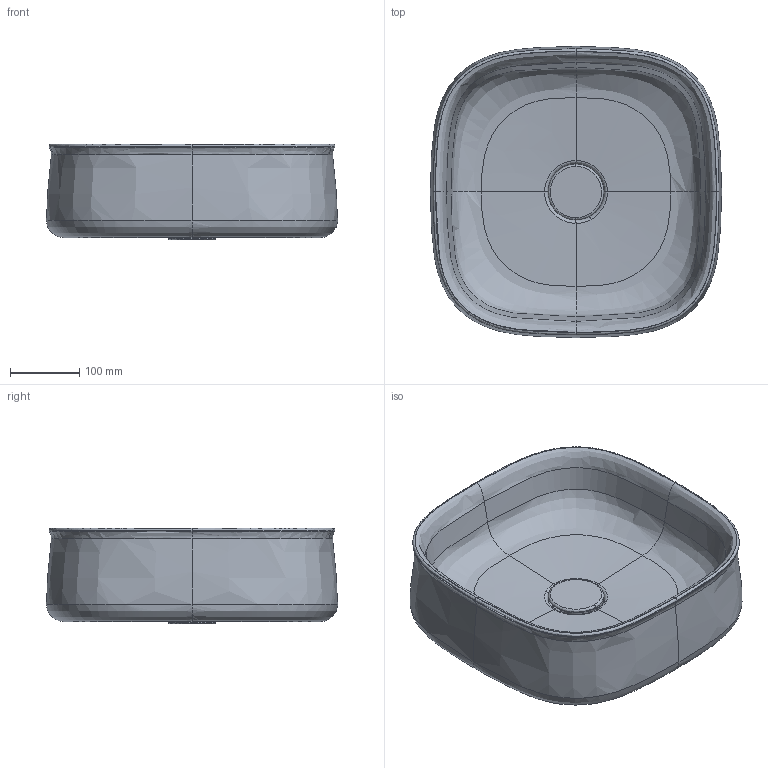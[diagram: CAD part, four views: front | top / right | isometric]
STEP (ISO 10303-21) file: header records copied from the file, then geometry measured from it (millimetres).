
FILE_DESCRIPTION(/* description */ (''),/* implementation_level */ '2;1');
FILE_NAME(/* name */ '237342',/* time_stamp */ '2021-09-21T07:37:23+02:00',/* author */ (''),/* organization */ (''),/* preprocessor_version */ 'ST-DEVELOPER v15',/* originating_system */ '',/* authorisation */ '');
FILE_SCHEMA (('AUTOMOTIVE_DESIGN'));
Length unit declared in the file: millimetre
Products named in the file (1): Document
Bounding box: 420.08 x 420.08 x 137.78 mm (x, y, z)
Volume: 7446075.3 mm3; surface area: 606675.9 mm2
Topology: 3 solids, 3 shells, 146 faces, 314 edges, 176 vertices
Faces by surface type: bspline 130, plane 16
Entity records: 53475 total; most frequent: CARTESIAN_POINT 51526, ORIENTED_EDGE 628, EDGE_CURVE 314, B_SPLINE_CURVE_WITH_KNOTS 214, VERTEX_POINT 176, EDGE_LOOP 152, ADVANCED_FACE 146, FACE_OUTER_BOUND 146
